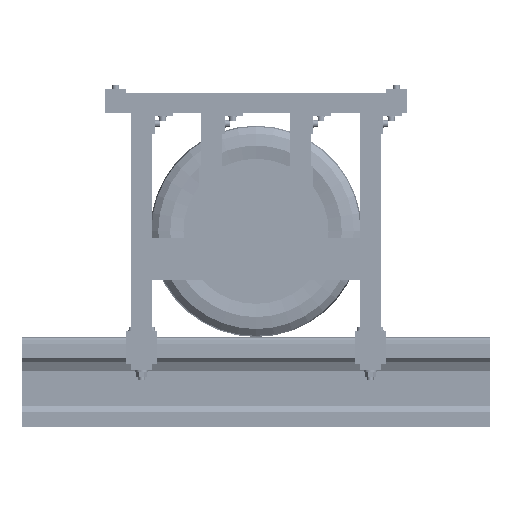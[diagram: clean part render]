
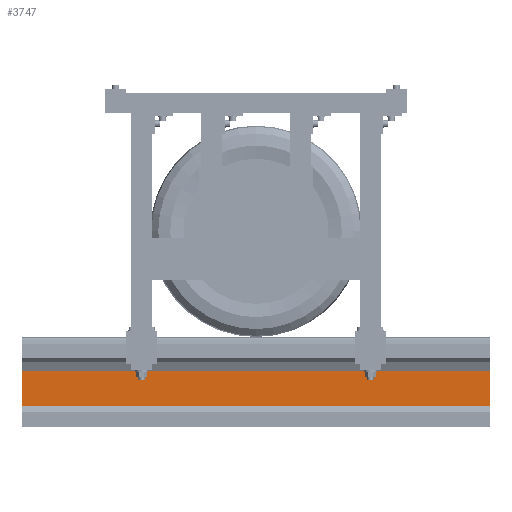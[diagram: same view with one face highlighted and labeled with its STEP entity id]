
A CAD part, front view. The second image highlights one B-rep face of the part: STEP entity #3747.
In plain terms, the highlighted planar face has unit normal (0, -1, 0).
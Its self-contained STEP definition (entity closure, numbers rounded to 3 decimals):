
#1782 = PLANE('',#1783);
#1783 = AXIS2_PLACEMENT_3D('',#1784,#1785,#1786);
#1784 = CARTESIAN_POINT('',(450.,0.,-106.51));
#1785 = DIRECTION('',(-1.,-0.,-0.));
#1786 = DIRECTION('',(0.,0.,-1.));
#1836 = PLANE('',#1837);
#1837 = AXIS2_PLACEMENT_3D('',#1838,#1839,#1840);
#1838 = CARTESIAN_POINT('',(-450.,0.,-106.51));
#1839 = DIRECTION('',(-1.,-0.,-0.));
#1840 = DIRECTION('',(0.,0.,-1.));
#3639 = PLANE('',#3640);
#3640 = AXIS2_PLACEMENT_3D('',#3641,#3642,#3643);
#3641 = CARTESIAN_POINT('',(-450.,-16.25,-143.9));
#3642 = DIRECTION('',(0.,-0.83,0.558));
#3643 = DIRECTION('',(0.,0.558,0.83));
#3677 = VERTEX_POINT('',#3678);
#3678 = CARTESIAN_POINT('',(450.,-8.25,-132.));
#3699 = EDGE_CURVE('',#3700,#3677,#3702,.T.);
#3700 = VERTEX_POINT('',#3701);
#3701 = CARTESIAN_POINT('',(-450.,-8.25,-132.));
#3702 = SURFACE_CURVE('',#3703,(#3707,#3714),.PCURVE_S1.);
#3703 = LINE('',#3704,#3705);
#3704 = CARTESIAN_POINT('',(-450.,-8.25,-132.));
#3705 = VECTOR('',#3706,1.);
#3706 = DIRECTION('',(1.,0.,0.));
#3707 = PCURVE('',#3639,#3708);
#3708 = DEFINITIONAL_REPRESENTATION('',(#3709),#3713);
#3709 = LINE('',#3710,#3711);
#3710 = CARTESIAN_POINT('',(14.339,0.));
#3711 = VECTOR('',#3712,1.);
#3712 = DIRECTION('',(0.,-1.));
#3713 = ( GEOMETRIC_REPRESENTATION_CONTEXT(2) 
PARAMETRIC_REPRESENTATION_CONTEXT() REPRESENTATION_CONTEXT('2D SPACE',''
  ) );
#3714 = PCURVE('',#3715,#3720);
#3715 = PLANE('',#3716);
#3716 = AXIS2_PLACEMENT_3D('',#3717,#3718,#3719);
#3717 = CARTESIAN_POINT('',(-450.,-8.25,-132.));
#3718 = DIRECTION('',(0.,-1.,0.));
#3719 = DIRECTION('',(0.,0.,1.));
#3720 = DEFINITIONAL_REPRESENTATION('',(#3721),#3725);
#3721 = LINE('',#3722,#3723);
#3722 = CARTESIAN_POINT('',(0.,0.));
#3723 = VECTOR('',#3724,1.);
#3724 = DIRECTION('',(0.,-1.));
#3725 = ( GEOMETRIC_REPRESENTATION_CONTEXT(2) 
PARAMETRIC_REPRESENTATION_CONTEXT() REPRESENTATION_CONTEXT('2D SPACE',''
  ) );
#3747 = ADVANCED_FACE('',(#3748),#3715,.T.);
#3748 = FACE_BOUND('',#3749,.T.);
#3749 = EDGE_LOOP('',(#3750,#3751,#3774,#3802));
#3750 = ORIENTED_EDGE('',*,*,#3699,.T.);
#3751 = ORIENTED_EDGE('',*,*,#3752,.T.);
#3752 = EDGE_CURVE('',#3677,#3753,#3755,.T.);
#3753 = VERTEX_POINT('',#3754);
#3754 = CARTESIAN_POINT('',(450.,-8.25,-65.));
#3755 = SURFACE_CURVE('',#3756,(#3760,#3767),.PCURVE_S1.);
#3756 = LINE('',#3757,#3758);
#3757 = CARTESIAN_POINT('',(450.,-8.25,-132.));
#3758 = VECTOR('',#3759,1.);
#3759 = DIRECTION('',(0.,0.,1.));
#3760 = PCURVE('',#3715,#3761);
#3761 = DEFINITIONAL_REPRESENTATION('',(#3762),#3766);
#3762 = LINE('',#3763,#3764);
#3763 = CARTESIAN_POINT('',(0.,-900.));
#3764 = VECTOR('',#3765,1.);
#3765 = DIRECTION('',(1.,0.));
#3766 = ( GEOMETRIC_REPRESENTATION_CONTEXT(2) 
PARAMETRIC_REPRESENTATION_CONTEXT() REPRESENTATION_CONTEXT('2D SPACE',''
  ) );
#3767 = PCURVE('',#1782,#3768);
#3768 = DEFINITIONAL_REPRESENTATION('',(#3769),#3773);
#3769 = LINE('',#3770,#3771);
#3770 = CARTESIAN_POINT('',(25.49,8.25));
#3771 = VECTOR('',#3772,1.);
#3772 = DIRECTION('',(-1.,0.));
#3773 = ( GEOMETRIC_REPRESENTATION_CONTEXT(2) 
PARAMETRIC_REPRESENTATION_CONTEXT() REPRESENTATION_CONTEXT('2D SPACE',''
  ) );
#3774 = ORIENTED_EDGE('',*,*,#3775,.F.);
#3775 = EDGE_CURVE('',#3776,#3753,#3778,.T.);
#3776 = VERTEX_POINT('',#3777);
#3777 = CARTESIAN_POINT('',(-450.,-8.25,-65.));
#3778 = SURFACE_CURVE('',#3779,(#3783,#3790),.PCURVE_S1.);
#3779 = LINE('',#3780,#3781);
#3780 = CARTESIAN_POINT('',(-450.,-8.25,-65.));
#3781 = VECTOR('',#3782,1.);
#3782 = DIRECTION('',(1.,0.,0.));
#3783 = PCURVE('',#3715,#3784);
#3784 = DEFINITIONAL_REPRESENTATION('',(#3785),#3789);
#3785 = LINE('',#3786,#3787);
#3786 = CARTESIAN_POINT('',(67.,0.));
#3787 = VECTOR('',#3788,1.);
#3788 = DIRECTION('',(0.,-1.));
#3789 = ( GEOMETRIC_REPRESENTATION_CONTEXT(2) 
PARAMETRIC_REPRESENTATION_CONTEXT() REPRESENTATION_CONTEXT('2D SPACE',''
  ) );
#3790 = PCURVE('',#3791,#3796);
#3791 = PLANE('',#3792);
#3792 = AXIS2_PLACEMENT_3D('',#3793,#3794,#3795);
#3793 = CARTESIAN_POINT('',(-450.,-8.25,-65.));
#3794 = DIRECTION('',(0.,-0.894,-0.447));
#3795 = DIRECTION('',(0.,-0.447,0.894));
#3796 = DEFINITIONAL_REPRESENTATION('',(#3797),#3801);
#3797 = LINE('',#3798,#3799);
#3798 = CARTESIAN_POINT('',(0.,0.));
#3799 = VECTOR('',#3800,1.);
#3800 = DIRECTION('',(0.,-1.));
#3801 = ( GEOMETRIC_REPRESENTATION_CONTEXT(2) 
PARAMETRIC_REPRESENTATION_CONTEXT() REPRESENTATION_CONTEXT('2D SPACE',''
  ) );
#3802 = ORIENTED_EDGE('',*,*,#3803,.F.);
#3803 = EDGE_CURVE('',#3700,#3776,#3804,.T.);
#3804 = SURFACE_CURVE('',#3805,(#3809,#3816),.PCURVE_S1.);
#3805 = LINE('',#3806,#3807);
#3806 = CARTESIAN_POINT('',(-450.,-8.25,-132.));
#3807 = VECTOR('',#3808,1.);
#3808 = DIRECTION('',(0.,0.,1.));
#3809 = PCURVE('',#3715,#3810);
#3810 = DEFINITIONAL_REPRESENTATION('',(#3811),#3815);
#3811 = LINE('',#3812,#3813);
#3812 = CARTESIAN_POINT('',(0.,0.));
#3813 = VECTOR('',#3814,1.);
#3814 = DIRECTION('',(1.,0.));
#3815 = ( GEOMETRIC_REPRESENTATION_CONTEXT(2) 
PARAMETRIC_REPRESENTATION_CONTEXT() REPRESENTATION_CONTEXT('2D SPACE',''
  ) );
#3816 = PCURVE('',#1836,#3817);
#3817 = DEFINITIONAL_REPRESENTATION('',(#3818),#3822);
#3818 = LINE('',#3819,#3820);
#3819 = CARTESIAN_POINT('',(25.49,8.25));
#3820 = VECTOR('',#3821,1.);
#3821 = DIRECTION('',(-1.,0.));
#3822 = ( GEOMETRIC_REPRESENTATION_CONTEXT(2) 
PARAMETRIC_REPRESENTATION_CONTEXT() REPRESENTATION_CONTEXT('2D SPACE',''
  ) );
